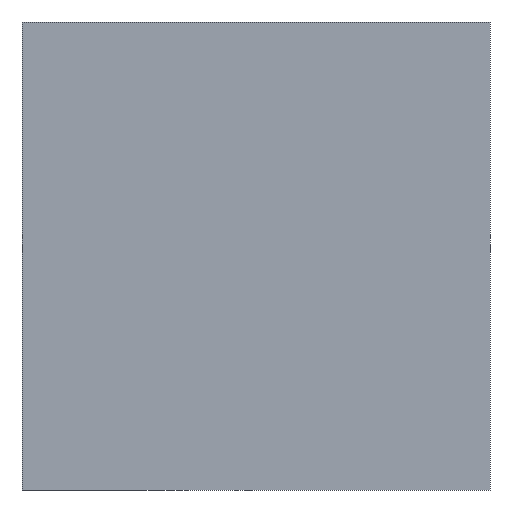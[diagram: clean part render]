
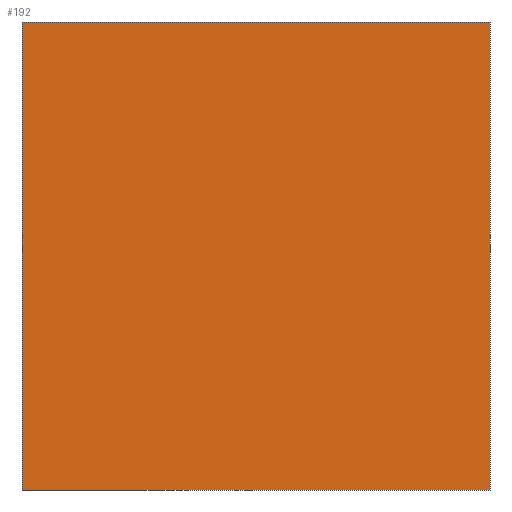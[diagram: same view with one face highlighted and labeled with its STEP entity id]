
A CAD part, front view. The second image highlights one B-rep face of the part: STEP entity #192.
In plain terms, the highlighted planar face has unit normal (0, -1, 0).
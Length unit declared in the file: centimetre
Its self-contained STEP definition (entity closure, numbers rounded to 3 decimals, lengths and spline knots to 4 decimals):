
#2 = CARTESIAN_POINT ( 'NONE',  ( 0., 0., 0. ) ) ;
#3 = CARTESIAN_POINT ( 'NONE',  ( 1000., 0., 1000. ) ) ;
#7 = CARTESIAN_POINT ( 'NONE',  ( 0., 0., 1000. ) ) ;
#19 = EDGE_CURVE ( 'NONE', #26, #265, #246, .T. ) ;
#26 = VERTEX_POINT ( 'NONE', #2 ) ;
#35 = DIRECTION ( 'NONE',  ( 0., 0., -1. ) ) ;
#37 = VECTOR ( 'NONE', #35, 100. ) ;
#47 = DIRECTION ( 'NONE',  ( 0., 1., 0. ) ) ;
#75 = DIRECTION ( 'NONE',  ( 1., 0., 0. ) ) ;
#109 = VERTEX_POINT ( 'NONE', #7 ) ;
#111 = CARTESIAN_POINT ( 'NONE',  ( 0., 0., 1000. ) ) ;
#124 = EDGE_CURVE ( 'NONE', #109, #26, #187, .T. ) ;
#146 = ORIENTED_EDGE ( 'NONE', *, *, #352, .F. ) ;
#147 = VECTOR ( 'NONE', #75, 100. ) ;
#172 = CARTESIAN_POINT ( 'NONE',  ( 0., 0., 1000. ) ) ;
#187 = LINE ( 'NONE', #287, #249 ) ;
#192 = ADVANCED_FACE ( 'NONE', ( #414 ), #211, .F. ) ;
#207 = DIRECTION ( 'NONE',  ( 1., 0., 0. ) ) ;
#211 = PLANE ( 'NONE',  #291 ) ;
#232 = EDGE_LOOP ( 'NONE', ( #256, #146, #393, #347 ) ) ;
#234 = LINE ( 'NONE', #3, #37 ) ;
#242 = LINE ( 'NONE', #172, #328 ) ;
#246 = LINE ( 'NONE', #309, #147 ) ;
#249 = VECTOR ( 'NONE', #386, 100. ) ;
#253 = DIRECTION ( 'NONE',  ( 0., 0., 1. ) ) ;
#256 = ORIENTED_EDGE ( 'NONE', *, *, #19, .T. ) ;
#265 = VERTEX_POINT ( 'NONE', #343 ) ;
#270 = CARTESIAN_POINT ( 'NONE',  ( 1000., 0., 1000. ) ) ;
#287 = CARTESIAN_POINT ( 'NONE',  ( 0., 0., 1000. ) ) ;
#291 = AXIS2_PLACEMENT_3D ( 'NONE', #111, #47, #253 ) ;
#309 = CARTESIAN_POINT ( 'NONE',  ( 0., 0., 0. ) ) ;
#328 = VECTOR ( 'NONE', #207, 100. ) ;
#329 = EDGE_CURVE ( 'NONE', #109, #368, #242, .T. ) ;
#343 = CARTESIAN_POINT ( 'NONE',  ( 1000., 0., 0. ) ) ;
#347 = ORIENTED_EDGE ( 'NONE', *, *, #124, .T. ) ;
#352 = EDGE_CURVE ( 'NONE', #368, #265, #234, .T. ) ;
#368 = VERTEX_POINT ( 'NONE', #270 ) ;
#386 = DIRECTION ( 'NONE',  ( 0., 0., -1. ) ) ;
#393 = ORIENTED_EDGE ( 'NONE', *, *, #329, .F. ) ;
#414 = FACE_OUTER_BOUND ( 'NONE', #232, .T. ) ;
